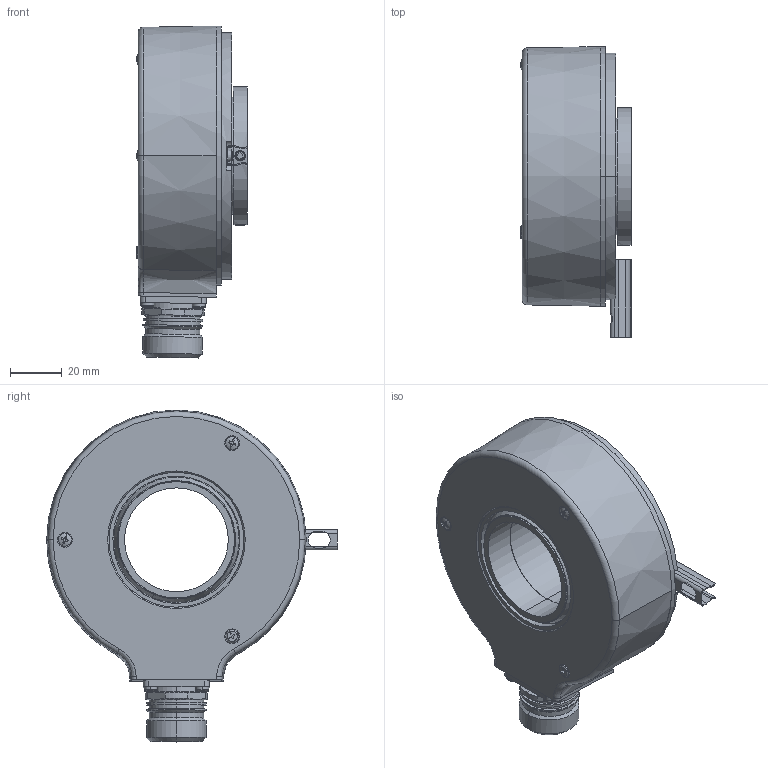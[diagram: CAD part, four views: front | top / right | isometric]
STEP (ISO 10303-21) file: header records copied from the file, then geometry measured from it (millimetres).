
FILE_DESCRIPTION (( 'STEP AP203' ), '1' );
FILE_NAME ('A020.3BX2.5000.STEP', '2011-09-08T08:26:37', ( 'Hodot' ), ( 'Kuebler' ), 'SwSTEP 2.0', 'SolidWorks 2009', '' );
FILE_SCHEMA (( 'CONFIG_CONTROL_DESIGN' ));
Length unit declared in the file: millimetre
Products named in the file (1): A020.3BX2.5000
Bounding box: 42.6 x 112 x 127.91 mm (x, y, z)
Volume: 141678.3 mm3; surface area: 89678.6 mm2
Topology: 31 solids, 33 shells, 1138 faces, 2730 edges, 1667 vertices
Faces by surface type: cylinder 464, plane 316, cone 192, sphere 84, torus 78, bspline 4
Entity records: 35123 total; most frequent: CARTESIAN_POINT 8603, DIRECTION 6049, ORIENTED_EDGE 5088, EDGE_CURVE 2544, AXIS2_PLACEMENT_3D 2522, VERTEX_POINT 1595, CIRCLE 1387, EDGE_LOOP 1377
